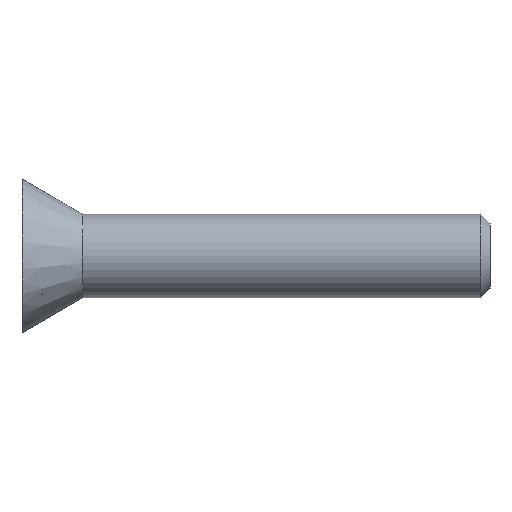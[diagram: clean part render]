
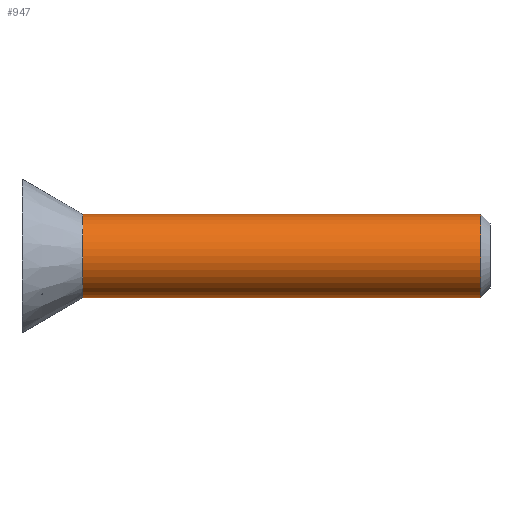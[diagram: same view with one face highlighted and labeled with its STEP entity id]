
A CAD part, top view. The second image highlights one B-rep face of the part: STEP entity #947.
In plain terms, the highlighted cylindrical face has radius 1.25 mm (diameter 2.5 mm), a partial arc.
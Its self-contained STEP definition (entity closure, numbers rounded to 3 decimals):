
#3 = DIRECTION ( 'NONE',  ( -1., 0., 0. ) ) ;
#113 = EDGE_CURVE ( 'NONE', #1520, #869, #716, .T. ) ;
#125 = ORIENTED_EDGE ( 'NONE', *, *, #113, .T. ) ;
#133 = CARTESIAN_POINT ( 'NONE',  ( -7., 0., 0. ) ) ;
#171 = CIRCLE ( 'NONE', #1319, 1.25 ) ;
#199 = DIRECTION ( 'NONE',  ( 0., 1., 0. ) ) ;
#209 = EDGE_LOOP ( 'NONE', ( #125, #386, #727, #457 ) ) ;
#249 = VERTEX_POINT ( 'NONE', #1304 ) ;
#251 = CARTESIAN_POINT ( 'NONE',  ( -5.181, 1.25, 0. ) ) ;
#275 = CARTESIAN_POINT ( 'NONE',  ( 6.725, -1.25, 0. ) ) ;
#312 = DIRECTION ( 'NONE',  ( -1., 0., 0. ) ) ;
#380 = FACE_OUTER_BOUND ( 'NONE', #209, .T. ) ;
#386 = ORIENTED_EDGE ( 'NONE', *, *, #661, .T. ) ;
#414 = EDGE_CURVE ( 'NONE', #1520, #249, #455, .T. ) ;
#455 = LINE ( 'NONE', #700, #1106 ) ;
#457 = ORIENTED_EDGE ( 'NONE', *, *, #414, .F. ) ;
#526 = EDGE_CURVE ( 'NONE', #249, #842, #171, .T. ) ;
#566 = DIRECTION ( 'NONE',  ( -1., 0., 0. ) ) ;
#600 = DIRECTION ( 'NONE',  ( -1., 0., 0. ) ) ;
#632 = CYLINDRICAL_SURFACE ( 'NONE', #1208, 1.25 ) ;
#661 = EDGE_CURVE ( 'NONE', #869, #842, #681, .T. ) ;
#671 = VECTOR ( 'NONE', #566, 1000. ) ;
#681 = LINE ( 'NONE', #1563, #671 ) ;
#684 = CARTESIAN_POINT ( 'NONE',  ( 6.725, 0., 0. ) ) ;
#700 = CARTESIAN_POINT ( 'NONE',  ( -7., -1.25, 0. ) ) ;
#716 = CIRCLE ( 'NONE', #956, 1.25 ) ;
#727 = ORIENTED_EDGE ( 'NONE', *, *, #526, .F. ) ;
#783 = DIRECTION ( 'NONE',  ( -1., 0., 0. ) ) ;
#842 = VERTEX_POINT ( 'NONE', #251 ) ;
#869 = VERTEX_POINT ( 'NONE', #1026 ) ;
#947 = ADVANCED_FACE ( 'NONE', ( #380 ), #632, .T. ) ;
#956 = AXIS2_PLACEMENT_3D ( 'NONE', #684, #600, #199 ) ;
#1020 = DIRECTION ( 'NONE',  ( 0., -1., 0. ) ) ;
#1026 = CARTESIAN_POINT ( 'NONE',  ( 6.725, 1.25, 0. ) ) ;
#1106 = VECTOR ( 'NONE', #312, 1000. ) ;
#1160 = DIRECTION ( 'NONE',  ( 0., -1., 0. ) ) ;
#1208 = AXIS2_PLACEMENT_3D ( 'NONE', #133, #3, #1020 ) ;
#1304 = CARTESIAN_POINT ( 'NONE',  ( -5.181, -1.25, 0. ) ) ;
#1319 = AXIS2_PLACEMENT_3D ( 'NONE', #1558, #783, #1160 ) ;
#1520 = VERTEX_POINT ( 'NONE', #275 ) ;
#1558 = CARTESIAN_POINT ( 'NONE',  ( -5.181, 0., 0. ) ) ;
#1563 = CARTESIAN_POINT ( 'NONE',  ( -7., 1.25, 0. ) ) ;
